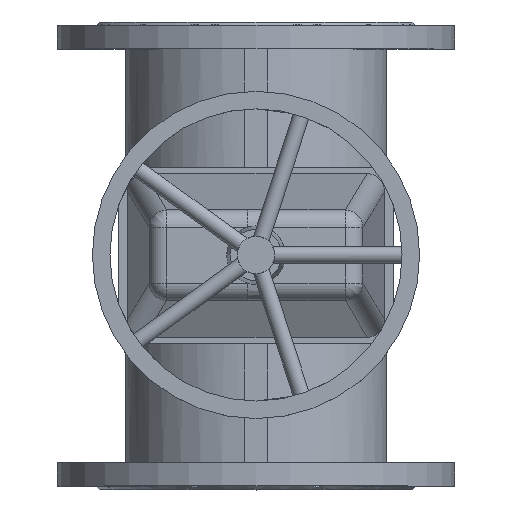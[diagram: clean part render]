
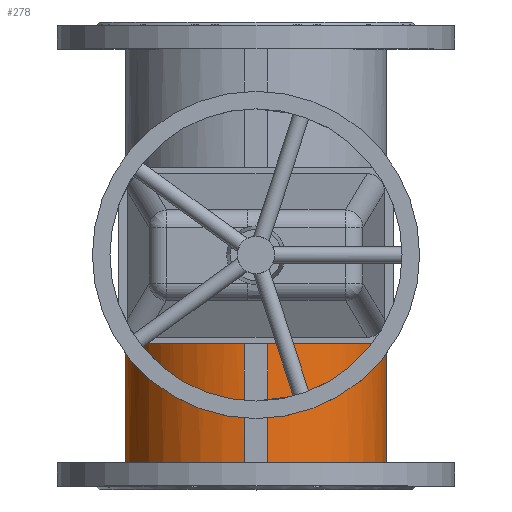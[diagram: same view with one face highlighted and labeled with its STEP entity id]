
A CAD part, top view. The second image highlights one B-rep face of the part: STEP entity #278.
In plain terms, the highlighted cylindrical face has radius 112 mm (diameter 224 mm), a partial arc.
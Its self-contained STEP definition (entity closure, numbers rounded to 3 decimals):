
#278=ADVANCED_FACE('',(#1694),#1696,.T.);
#1694=FACE_BOUND('',#1695,.T.);
#1695=EDGE_LOOP('',(#3331,#3332,#3333,#3334,#3335));
#1696=CYLINDRICAL_SURFACE('',#1697,112.);
#1697=AXIS2_PLACEMENT_3D('',#1698,#1699,#1700);
#1698=CARTESIAN_POINT('',(0.,-177.,0.));
#1699=DIRECTION('',(0.,1.,0.));
#1700=DIRECTION('',(0.,0.,1.));
#3331=ORIENTED_EDGE('',*,*,#4185,.F.);
#3332=ORIENTED_EDGE('',*,*,#4158,.F.);
#3333=ORIENTED_EDGE('',*,*,#4152,.F.);
#3334=ORIENTED_EDGE('',*,*,#4184,.F.);
#3335=ORIENTED_EDGE('',*,*,#4186,.T.);
#4152=EDGE_CURVE('',#4643,#4645,#4646,.T.);
#4158=EDGE_CURVE('',#4645,#4655,#4656,.T.);
#4184=EDGE_CURVE('',#4699,#4643,#4701,.T.);
#4185=EDGE_CURVE('',#4655,#4702,#4703,.F.);
#4186=EDGE_CURVE('',#4699,#4702,#4704,.T.);
#4643=VERTEX_POINT('',#5519);
#4645=VERTEX_POINT('',#5523);
#4646=(BOUNDED_CURVE()B_SPLINE_CURVE(3,
(#5524,#5525,#5526,#5527),
.UNSPECIFIED.,.F.,.F.)B_SPLINE_CURVE_WITH_KNOTS((4,4),
(0.,1.),
.UNSPECIFIED.)CURVE()GEOMETRIC_REPRESENTATION_ITEM()RATIONAL_B_SPLINE_CURVE((1.,
0.363,0.363,1.))REPRESENTATION_ITEM(''));
#4655=VERTEX_POINT('',#5547);
#4656=(BOUNDED_CURVE()B_SPLINE_CURVE(3,
(#5548,#5549,#5550,#5551),
.UNSPECIFIED.,.F.,.F.)B_SPLINE_CURVE_WITH_KNOTS((4,4),
(0.,1.),
.UNSPECIFIED.)CURVE()GEOMETRIC_REPRESENTATION_ITEM()RATIONAL_B_SPLINE_CURVE((1.,
0.363,0.363,1.))REPRESENTATION_ITEM(''));
#4699=VERTEX_POINT('',#5649);
#4701=LINE('',#5653,#5654);
#4702=VERTEX_POINT('',#5656);
#4703=LINE('',#5657,#5658);
#4704=CIRCLE('',#5660,112.);
#5519=CARTESIAN_POINT('',(10.,-59.379,111.553));
#5523=CARTESIAN_POINT('',(0.,-42.5,-112.));
#5524=CARTESIAN_POINT('',(10.,-59.379,111.553));
#5525=CARTESIAN_POINT('',(214.597,-57.994,93.212));
#5526=CARTESIAN_POINT('',(205.417,-42.5,-112.));
#5527=CARTESIAN_POINT('',(0.,-42.5,-112.));
#5547=CARTESIAN_POINT('',(-10.,-59.379,111.553));
#5548=CARTESIAN_POINT('',(0.,-42.5,-112.));
#5549=CARTESIAN_POINT('',(-205.417,-42.5,-112.));
#5550=CARTESIAN_POINT('',(-214.597,-57.994,93.212));
#5551=CARTESIAN_POINT('',(-10.,-59.379,111.553));
#5649=CARTESIAN_POINT('',(10.,-177.,111.553));
#5653=CARTESIAN_POINT('',(10.,-177.,111.553));
#5654=VECTOR('',#5655,1.);
#5655=DIRECTION('',(0.,1.,0.));
#5656=CARTESIAN_POINT('',(-10.,-177.,111.553));
#5657=CARTESIAN_POINT('',(-10.,-177.,111.553));
#5658=VECTOR('',#5659,1.);
#5659=DIRECTION('',(0.,1.,0.));
#5660=AXIS2_PLACEMENT_3D('',#5661,#5662,#5663);
#5661=CARTESIAN_POINT('',(0.,-177.,0.));
#5662=DIRECTION('',(0.,1.,0.));
#5663=DIRECTION('',(0.089,0.,0.996));
